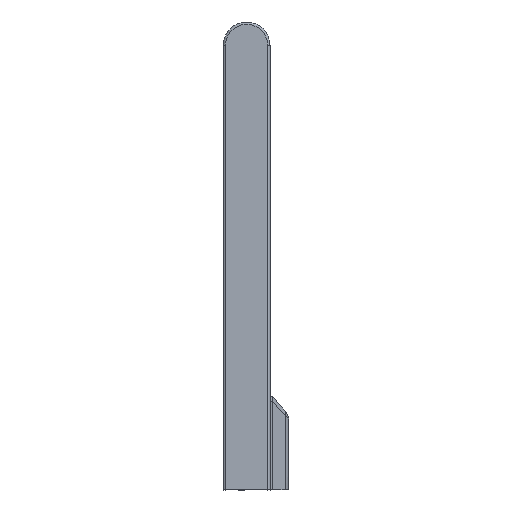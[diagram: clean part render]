
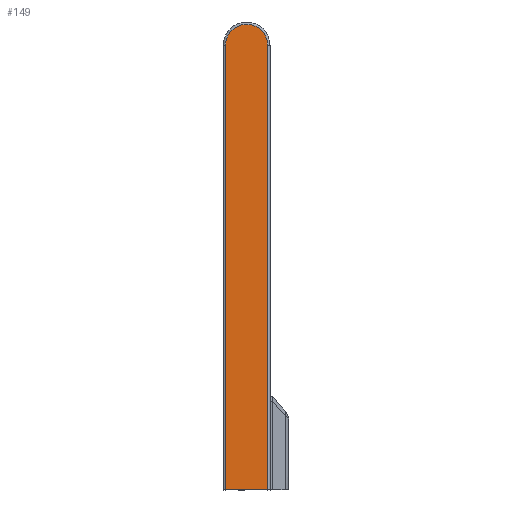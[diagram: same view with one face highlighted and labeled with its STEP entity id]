
A CAD part, left-side view. The second image highlights one B-rep face of the part: STEP entity #149.
In plain terms, the highlighted planar face has unit normal (-1, 0, 0).
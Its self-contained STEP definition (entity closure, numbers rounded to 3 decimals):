
#149 = ADVANCED_FACE ( 'NONE', ( #1152 ), #5203, .F. ) ;
#249 = EDGE_CURVE ( 'NONE', #2071, #2068, #5586, .T. ) ;
#259 = EDGE_CURVE ( 'NONE', #2059, #2052, #2971, .T. ) ;
#267 = EDGE_CURVE ( 'NONE', #2052, #2071, #5616, .T. ) ;
#277 = EDGE_CURVE ( 'NONE', #2068, #2059, #5618, .T. ) ;
#1152 = FACE_OUTER_BOUND ( 'NONE', #2288, .T. ) ;
#1974 = ORIENTED_EDGE ( 'NONE', *, *, #249, .T. ) ;
#1975 = ORIENTED_EDGE ( 'NONE', *, *, #267, .T. ) ;
#1978 = ORIENTED_EDGE ( 'NONE', *, *, #259, .T. ) ;
#1984 = ORIENTED_EDGE ( 'NONE', *, *, #277, .T. ) ;
#2052 = VERTEX_POINT ( 'NONE', #3615 ) ;
#2059 = VERTEX_POINT ( 'NONE', #3612 ) ;
#2068 = VERTEX_POINT ( 'NONE', #3611 ) ;
#2071 = VERTEX_POINT ( 'NONE', #3618 ) ;
#2288 = EDGE_LOOP ( 'NONE', ( #1974, #1984, #1978, #1975 ) ) ;
#2684 = AXIS2_PLACEMENT_3D ( 'NONE', #5191, #5206, #5192 ) ;
#2966 = VECTOR ( 'NONE', #3836, 1000. ) ;
#2969 = VECTOR ( 'NONE', #3888, 1000. ) ;
#2971 = CIRCLE ( 'NONE', #2976, 4.5 ) ;
#2976 = AXIS2_PLACEMENT_3D ( 'NONE', #3870, #3861, #3862 ) ;
#3006 = VECTOR ( 'NONE', #3912, 1000. ) ;
#3611 = CARTESIAN_POINT ( 'NONE',  ( -95., 0.5, -66. ) ) ;
#3612 = CARTESIAN_POINT ( 'NONE',  ( -95., 0.5, 29. ) ) ;
#3615 = CARTESIAN_POINT ( 'NONE',  ( -95., 9.5, 29. ) ) ;
#3618 = CARTESIAN_POINT ( 'NONE',  ( -95., 9.5, -66. ) ) ;
#3835 = CARTESIAN_POINT ( 'NONE',  ( -95., 10., -66. ) ) ;
#3836 = DIRECTION ( 'NONE',  ( 0., -1., 0. ) ) ;
#3861 = DIRECTION ( 'NONE',  ( -1., 0., 0. ) ) ;
#3862 = DIRECTION ( 'NONE',  ( 0., 0., -1. ) ) ;
#3870 = CARTESIAN_POINT ( 'NONE',  ( -95., 5., 29. ) ) ;
#3885 = CARTESIAN_POINT ( 'NONE',  ( -95., 9.5, -66. ) ) ;
#3888 = DIRECTION ( 'NONE',  ( 0., 0., -1. ) ) ;
#3909 = CARTESIAN_POINT ( 'NONE',  ( -95., 0.5, -66. ) ) ;
#3912 = DIRECTION ( 'NONE',  ( 0., 0., 1. ) ) ;
#5191 = CARTESIAN_POINT ( 'NONE',  ( -95., 10., -66. ) ) ;
#5192 = DIRECTION ( 'NONE',  ( 0., 0., -1. ) ) ;
#5203 = PLANE ( 'NONE',  #2684 ) ;
#5206 = DIRECTION ( 'NONE',  ( 1., 0., 0. ) ) ;
#5586 = LINE ( 'NONE', #3835, #2966 ) ;
#5616 = LINE ( 'NONE', #3885, #2969 ) ;
#5618 = LINE ( 'NONE', #3909, #3006 ) ;
